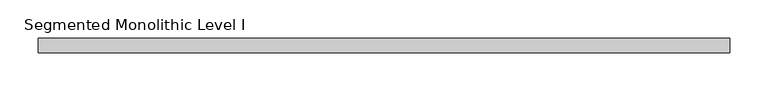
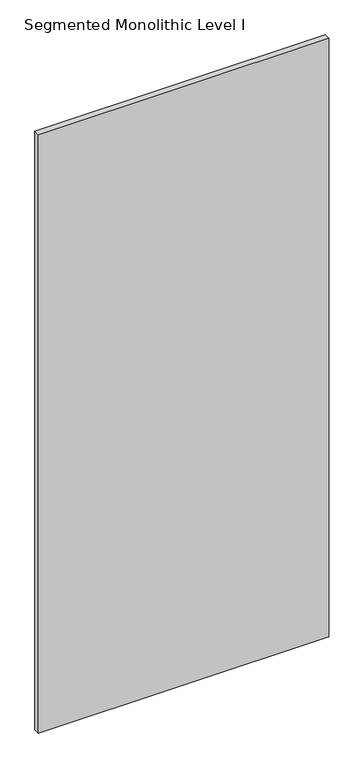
"""IFC4 building model written with IfcOpenShell, lengths in millimetres: proxy geometry, Panel-Fascia-Teknion-Altos : Segmented Monolithic Level I."""

import ifcopenshell
import ifcopenshell.guid

model = None  # the IFC model being written
_history = None  # IfcOwnerHistory: only IFC2X3 demands one
_inside = {}  # id of a spatial element -> (the spatial element, [elements in it])
_under = {}  # id of a project, library or spatial element -> (it, [spatial elements below it])
_declared = {}  # id of a project -> (the project, [libraries it declares])
_typed = {}  # id of a type object -> (the type object, [elements of that type])
_made_of = {}  # id of a material, layer set ... -> (it, [elements and type objects made of it])


def new_model(schema):
    """Start an empty IFC model of exactly this schema.

    Asked for "IFC4X3", IfcOpenShell would pick the latest addendum, in which some entities
    have other attributes; the version numbers below select the first issue.
    IFC2X3 requires an IfcOwnerHistory on every rooted entity: one is made here for all.
    """
    global model, _history
    if schema == "IFC4X3":
        model = ifcopenshell.file(schema_version=(4, 3, 0, 0))
    else:
        model = ifcopenshell.file(schema=schema)
    _inside.clear()
    _under.clear()
    _declared.clear()
    _typed.clear()
    _made_of.clear()
    _history = None
    if model.schema == "IFC2X3":
        org = make("IfcOrganization", Name="unknown")
        user = make(
            "IfcPersonAndOrganization",
            ThePerson=make("IfcPerson", FamilyName="unknown"),
            TheOrganization=org,
        )
        app = make(
            "IfcApplication",
            ApplicationDeveloper=org,
            Version="unknown",
            ApplicationFullName="unknown",
            ApplicationIdentifier="unknown",
        )
        _history = make(
            "IfcOwnerHistory",
            OwningUser=user,
            OwningApplication=app,
            ChangeAction="ADDED",
            CreationDate=0,
        )
    return model


def make(cls, **values):
    """One entity of the class cls with the attributes given. An attribute that is None is left unset."""
    return model.create_entity(
        cls, **{name: value for name, value in values.items() if value is not None}
    )


def rooted(cls, **values):
    """An entity with a GlobalId (a new one), such as an element, a storey or a relation."""
    return make(cls, GlobalId=ifcopenshell.guid.new(), OwnerHistory=_history, **values)


def si_unit(unit_type, name, prefix=None):
    """IfcSIUnit, for example si_unit("LENGTHUNIT", "METRE", prefix="MILLI")."""
    return make("IfcSIUnit", UnitType=unit_type, Prefix=prefix, Name=name)


def assignment(units):
    """IfcUnitAssignment: the units of a project."""
    return None if units is None else make("IfcUnitAssignment", Units=units)


def point(xyz):
    """IfcCartesianPoint."""
    return None if xyz is None else make("IfcCartesianPoint", Coordinates=xyz)


def direction(xyz):
    """IfcDirection."""
    return None if xyz is None else make("IfcDirection", DirectionRatios=xyz)


def frame(location, z_axis=None, x_axis=None):
    """IfcAxis2Placement3D, a coordinate frame: its origin and axes. An axis left out is left unset."""
    return make(
        "IfcAxis2Placement3D",
        Location=point(location),
        Axis=direction(z_axis),
        RefDirection=direction(x_axis),
    )


def origin():
    """The frame at (0, 0, 0) with its axes left unset."""
    return frame((0.0, 0.0, 0.0))


def place(relative_to, where):
    """IfcLocalPlacement: puts the frame where relative to a parent placement (None: the world)."""
    return make(
        "IfcLocalPlacement", PlacementRelTo=relative_to, RelativePlacement=where
    )


def context(
    kind, dimensions, precision=None, world=None, true_north=None, identifier=None
):
    """IfcGeometricRepresentationContext, for example the 3D "Model" context."""
    return make(
        "IfcGeometricRepresentationContext",
        ContextIdentifier=identifier,
        ContextType=kind,
        CoordinateSpaceDimension=dimensions,
        Precision=precision,
        WorldCoordinateSystem=world,
        TrueNorth=true_north,
    )


def project(units=None, contexts=None):
    """IfcProject with its units and contexts."""
    return rooted(
        "IfcProject",
        Name="project",
        RepresentationContexts=contexts,
        UnitsInContext=assignment(units),
    )


def spatial(cls, under=None, at=None, **own):
    """A site, building, storey or space (cls), placed at a placement, below another one or the project."""
    s = rooted(cls, ObjectPlacement=at, **own)
    if under is not None:
        _under.setdefault(under.id(), (under, []))[1].append(s)
    return s


def polyline(points):
    """IfcPolyline through the points."""
    return make("IfcPolyline", Points=[point(p) for p in points])


def outline(outer, holes=None, kind="AREA"):
    """IfcArbitraryClosedProfileDef: a profile drawn as a closed curve; with holes, ...WithVoids."""
    if holes is None:
        return make("IfcArbitraryClosedProfileDef", ProfileType=kind, OuterCurve=outer)
    return make(
        "IfcArbitraryProfileDefWithVoids",
        ProfileType=kind,
        OuterCurve=outer,
        InnerCurves=holes,
    )


def extrude(swept, where, along, depth):
    """IfcExtrudedAreaSolid: the profile swept, set in the frame where, extruded along a direction by depth."""
    return make(
        "IfcExtrudedAreaSolid",
        SweptArea=swept,
        Position=where,
        ExtrudedDirection=direction(along),
        Depth=depth,
    )


def shape(context_of_items, identifier, shape_type, items):
    """IfcShapeRepresentation: the items that make up one representation, for example the "Body"."""
    return make(
        "IfcShapeRepresentation",
        ContextOfItems=context_of_items,
        RepresentationIdentifier=identifier,
        RepresentationType=shape_type,
        Items=items,
    )


def source(mapping_origin, context_of_items, identifier, shape_type, items):
    """IfcRepresentationMap: a shape defined once, which mapped items show again and again."""
    return make(
        "IfcRepresentationMap",
        MappingOrigin=mapping_origin,
        MappedRepresentation=shape(context_of_items, identifier, shape_type, items),
    )


def transform(
    local_origin,
    x_axis=None,
    y_axis=None,
    z_axis=None,
    scale=None,
    scale2=None,
    scale3=None,
    uniform=True,
):
    """IfcCartesianTransformationOperator3D, or its non-uniform kind. x_axis, y_axis, z_axis: its Axis1, 2, 3."""
    if uniform:
        return make(
            "IfcCartesianTransformationOperator3D",
            Axis1=direction(x_axis),
            Axis2=direction(y_axis),
            LocalOrigin=point(local_origin),
            Scale=scale,
            Axis3=direction(z_axis),
        )
    return make(
        "IfcCartesianTransformationOperator3DnonUniform",
        Axis1=direction(x_axis),
        Axis2=direction(y_axis),
        LocalOrigin=point(local_origin),
        Scale=scale,
        Axis3=direction(z_axis),
        Scale2=scale2,
        Scale3=scale3,
    )


def mapped(mapping_source, mapping_target):
    """IfcMappedItem: shows the shape of a source again, moved by a transform."""
    return make(
        "IfcMappedItem", MappingSource=mapping_source, MappingTarget=mapping_target
    )


def made_of(thing, what):
    """Note that an element or type object is made of a material, layer set ...; save() writes the relation."""
    if what is not None:
        _made_of.setdefault(what.id(), (what, []))[1].append(thing)
    return thing


def element(
    cls,
    number,
    at=None,
    inside=None,
    cuts=None,
    type_object=None,
    material=None,
    context=None,
    identifier="Body",
    shape_type=None,
    held_by="IfcProductDefinitionShape",
    body=None,
    shapes=None,
    **own,
):
    """One element of the class cls, such as IfcWall. Its Tag is "e" and its number.

    at: its placement. inside: the storey or other place that contains it. cuts: it is an
    opening in that element (IfcRelVoidsElement). A single representation is given by context,
    identifier, shape_type and body (its items); several are given by shapes. held_by: the class
    of the entity that holds the representations. save() writes the other relations.
    """
    e = rooted(cls, Tag="e%d" % number, ObjectPlacement=at, **own)
    if body is not None:
        shapes = [shape(context, identifier, shape_type, body)]
    if shapes is not None:
        e.Representation = make(held_by, Representations=shapes)
    if inside is not None:
        _inside.setdefault(inside.id(), (inside, []))[1].append(e)
    if cuts is not None:
        rooted(
            "IfcRelVoidsElement", RelatingBuildingElement=cuts, RelatedOpeningElement=e
        )
    if type_object is not None:
        _typed.setdefault(type_object.id(), (type_object, []))[1].append(e)
    return made_of(e, material)


def aggregate(whole, parts):
    """IfcRelAggregates: a whole, such as a stair, and the parts it consists of."""
    return rooted("IfcRelAggregates", RelatingObject=whole, RelatedObjects=parts)


def save(model, path):
    """Write the relations noted so far, then the file.

    IfcRelAggregates (storeys below a building ...), IfcRelContainedInSpatialStructure (elements
    in a storey), IfcRelDefinesByType, IfcRelAssociatesMaterial and IfcRelDeclares: one each for
    every whole, place, type object, material and project.
    """
    for whole, parts in _under.values():
        aggregate(whole, parts)
    for where, things in _inside.values():
        rooted(
            "IfcRelContainedInSpatialStructure",
            RelatedElements=things,
            RelatingStructure=where,
        )
    for kind, things in _typed.values():
        rooted("IfcRelDefinesByType", RelatedObjects=things, RelatingType=kind)
    for what, things in _made_of.values():
        rooted("IfcRelAssociatesMaterial", RelatedObjects=things, RelatingMaterial=what)
    for by, libraries in _declared.values():
        rooted("IfcRelDeclares", RelatingContext=by, RelatedDefinitions=libraries)
    model.write(path)


def segmented_monolithic_level_i_f7c86621(model_context):
    return source(origin(), model_context, "Body", "SweptSolid", [
        extrude(outline(polyline([(454.0305563, -9.525), (-454.0305562, -9.525), (-454.0305562, 9.525), (454.0305563, 9.525), (454.0305563, -9.525)])), frame((0.0, 0.0, 3.175), z_axis=(0.0, 0.0, 1.0), x_axis=(1.0, 0.0, 0.0)), (0.0, 0.0, 1.0), 1979.168),
    ])


if __name__ == "__main__":
    model = new_model("IFC4")
    model_context = context("Model", 3, world=origin())
    ifc_project = project(units=[si_unit("LENGTHUNIT", "METRE", prefix="MILLI")], contexts=[model_context])
    site = spatial("IfcSite", under=ifc_project)
    building = spatial("IfcBuilding", under=site)
    placement = place(None, origin())
    segmented_monolithic_level_i_shape = segmented_monolithic_level_i_f7c86621(model_context)
    element("IfcBuildingElementProxy", 1, Name="Panel-Fascia-Teknion-Altos : Segmented Monolithic Level I", ObjectType="Panel-Fascia-Teknion-Altos : Segmented Monolithic Level I", at=placement, inside=building, context=model_context, shape_type="MappedRepresentation", body=[
        mapped(segmented_monolithic_level_i_shape, transform((0.0, 0.0, 0.0), x_axis=(1.0, 0.0, 0.0), y_axis=(0.0, 1.0, 0.0), z_axis=(0.0, 0.0, 1.0))),
    ])
    save(model, "model.ifc")
